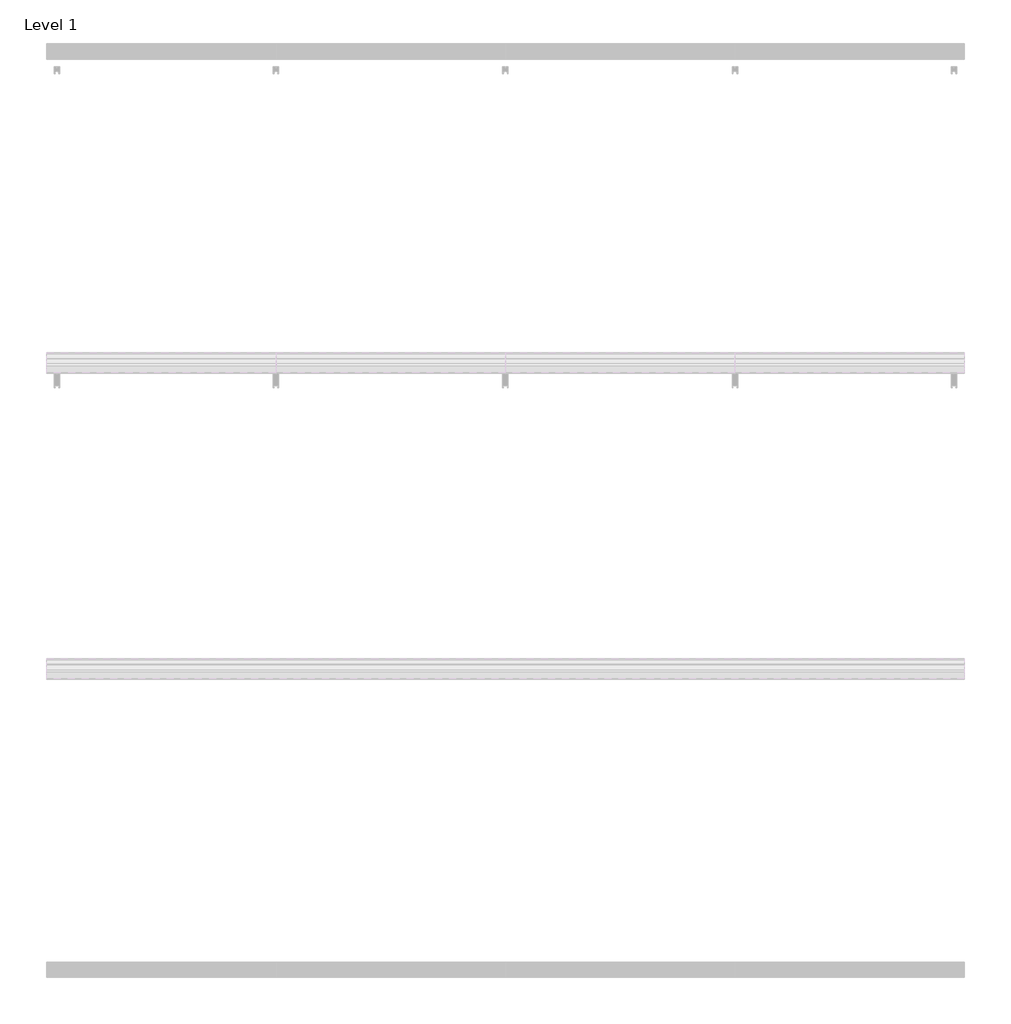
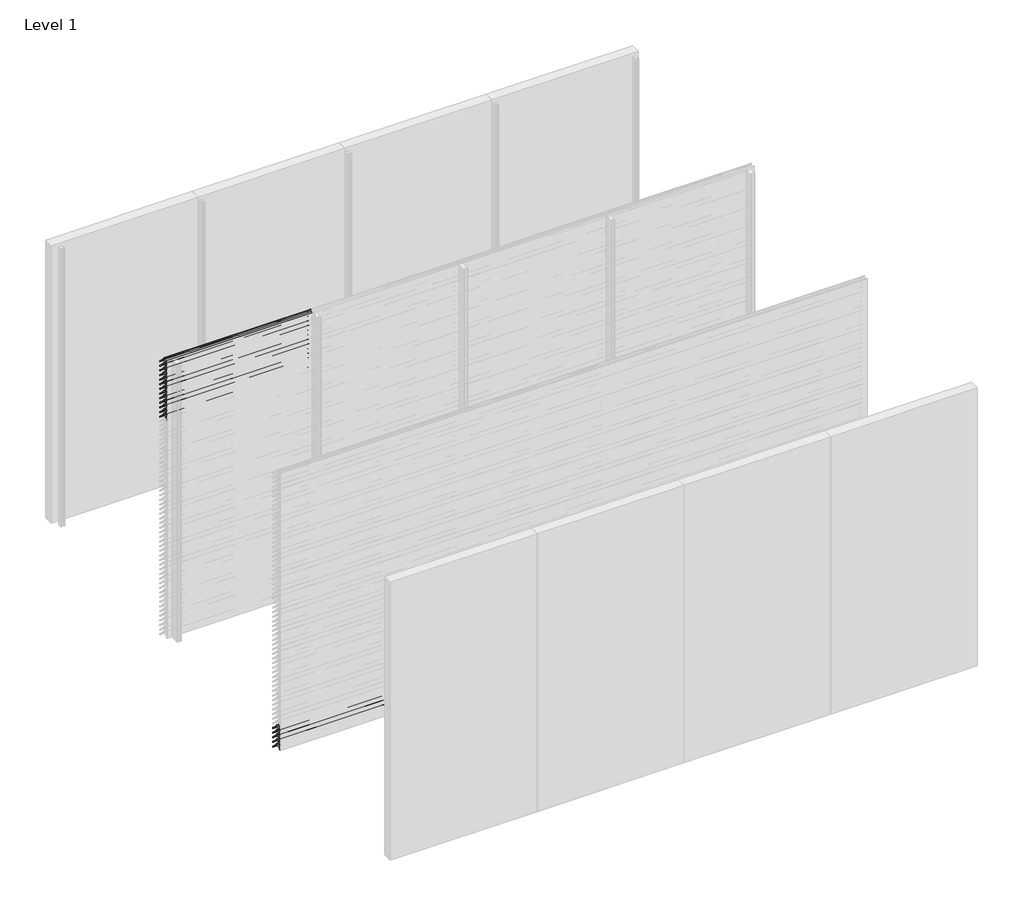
# One storey, part 109 of 173: 18 proxies.
"""IFC4 building model written with IfcOpenShell, lengths in millimetres."""

from ifc_helpers import new_model, si_unit, point, frame, frame_2d, origin, place, context, project, spatial, polyline, circle_curve, trimmed, segment, composite_curve, outline, extrude, element, save

model = new_model("IFC4")

# Units and contexts
model_context = context("Model", 3, world=origin())
ifc_project = project(units=[si_unit("LENGTHUNIT", "METRE", prefix="MILLI")], contexts=[model_context])

# Site, building, storey
site = spatial("IfcSite", under=ifc_project)
building = spatial("IfcBuilding", under=site)
storey = spatial("IfcBuildingStorey", under=building, Name="Level 1", Elevation=0.0)

# Proxies
placement = place(None, origin())
element("IfcBuildingElementProxy", 1, Name="Wall Sweeps", at=placement, inside=storey, context=model_context, shape_type="SweptSolid", body=[
    extrude(outline(composite_curve([segment(polyline([(-17998.0, 2959.1474905), (-17998.0, 2961.6227417)]), True, "CONTINUOUS"), segment(trimmed(circle_curve(frame_2d((-17951.2682172, 2916.2200208)), 65.1557103), [point((-17998.0, 2961.6227417))], [point((-17954.4014323, 2981.3003524))], False, "CARTESIAN"), True, "CONTINUOUS"), segment(polyline([(-17954.4014323, 2981.3003524), (-17934.8315836, 2981.3003524)]), True, "CONTINUOUS"), segment(trimmed(circle_curve(frame_2d((-17732.7329489, 3128.5533172)), 250.0545817), [point((-17934.8315836, 2981.3003524))], [point((-17941.4452143, 2990.8344583))], False, "CARTESIAN"), True, "CONTINUOUS"), segment(trimmed(circle_curve(frame_2d((-17953.2981792, 2985.1737835)), 13.1352966), [point((-17941.4452143, 2990.8344583))], [point((-17953.8171475, 2998.298824))], True, "CARTESIAN"), True, "CONTINUOUS"), segment(polyline([(-17953.8171475, 2998.298824), (-17953.8171475, 3000.0)]), True, "CONTINUOUS"), segment(trimmed(circle_curve(frame_2d((-17953.2981792, 2985.1737835)), 14.8352966), [point((-17953.8171475, 3000.0))], [point((-17939.9637661, 2991.6760487))], False, "CARTESIAN"), True, "CONTINUOUS"), segment(trimmed(circle_curve(frame_2d((-17732.7329489, 3128.5533172)), 248.3545817), [point((-17939.9637661, 2991.6760487))], [point((-17873.8787895, 2924.2059416))], True, "CARTESIAN"), True, "CONTINUOUS"), segment(trimmed(circle_curve(frame_2d((-17883.8147537, 2911.6649442)), 16.0), [point((-17873.8787895, 2924.2059416))], [point((-17867.8648347, 2910.4))], False, "CARTESIAN"), True, "CONTINUOUS"), segment(polyline([(-17867.8648347, 2910.4), (-17869.6712069, 2910.4)]), True, "CONTINUOUS"), segment(trimmed(circle_curve(frame_2d((-17883.8147537, 2911.6649442)), 14.2), [point((-17869.6712069, 2910.4))], [point((-17874.9518628, 2922.7594998))], True, "CARTESIAN"), True, "CONTINUOUS"), segment(trimmed(circle_curve(frame_2d((-17732.7329489, 3128.5533172)), 250.1545817), [point((-17874.9518628, 2922.7594998))], [point((-17933.7064024, 2979.6003524))], False, "CARTESIAN"), True, "CONTINUOUS"), segment(polyline([(-17933.7064024, 2979.6003524), (-17954.3602632, 2979.6003524)]), True, "CONTINUOUS"), segment(trimmed(circle_curve(frame_2d((-17951.2682172, 2916.2200208)), 63.4557103), [point((-17954.3602632, 2979.6003524))], [point((-17998.0, 2959.1474905))], True, "CARTESIAN"), True, "CONTINUOUS")], self_intersect=False)), frame((0.0, 0.0, 0.0), z_axis=(1.0, 0.0, 0.0), x_axis=(0.0, 1.0, 0.0)), (0.0, 0.0, 1.0), 1500.0),
])
element("IfcBuildingElementProxy", 2, Name="Wall Sweeps", at=placement, inside=storey, context=model_context, shape_type="SweptSolid", body=[
    extrude(outline(composite_curve([segment(polyline([(-17998.0, 2909.1474905), (-17998.0, 2911.6227417)]), True, "CONTINUOUS"), segment(trimmed(circle_curve(frame_2d((-17951.2682172, 2866.2200208)), 65.1557103), [point((-17998.0, 2911.6227417))], [point((-17954.4014323, 2931.3003524))], False, "CARTESIAN"), True, "CONTINUOUS"), segment(polyline([(-17954.4014323, 2931.3003524), (-17934.8315836, 2931.3003524)]), True, "CONTINUOUS"), segment(trimmed(circle_curve(frame_2d((-17732.7329489, 3078.5533172)), 250.0545817), [point((-17934.8315836, 2931.3003524))], [point((-17941.4452143, 2940.8344583))], False, "CARTESIAN"), True, "CONTINUOUS"), segment(trimmed(circle_curve(frame_2d((-17953.2981792, 2935.1737835)), 13.1352966), [point((-17941.4452143, 2940.8344583))], [point((-17953.8171475, 2948.298824))], True, "CARTESIAN"), True, "CONTINUOUS"), segment(polyline([(-17953.8171475, 2948.298824), (-17953.8171475, 2950.0)]), True, "CONTINUOUS"), segment(trimmed(circle_curve(frame_2d((-17953.2981792, 2935.1737835)), 14.8352966), [point((-17953.8171475, 2950.0))], [point((-17939.9637661, 2941.6760487))], False, "CARTESIAN"), True, "CONTINUOUS"), segment(trimmed(circle_curve(frame_2d((-17732.7329489, 3078.5533172)), 248.3545817), [point((-17939.9637661, 2941.6760487))], [point((-17873.8787895, 2874.2059416))], True, "CARTESIAN"), True, "CONTINUOUS"), segment(trimmed(circle_curve(frame_2d((-17883.8147537, 2861.6649442)), 16.0), [point((-17873.8787895, 2874.2059416))], [point((-17867.8648347, 2860.4))], False, "CARTESIAN"), True, "CONTINUOUS"), segment(polyline([(-17867.8648347, 2860.4), (-17869.6712069, 2860.4)]), True, "CONTINUOUS"), segment(trimmed(circle_curve(frame_2d((-17883.8147537, 2861.6649442)), 14.2), [point((-17869.6712069, 2860.4))], [point((-17874.9518628, 2872.7594998))], True, "CARTESIAN"), True, "CONTINUOUS"), segment(trimmed(circle_curve(frame_2d((-17732.7329489, 3078.5533172)), 250.1545817), [point((-17874.9518628, 2872.7594998))], [point((-17933.7064024, 2929.6003524))], False, "CARTESIAN"), True, "CONTINUOUS"), segment(polyline([(-17933.7064024, 2929.6003524), (-17954.3602632, 2929.6003524)]), True, "CONTINUOUS"), segment(trimmed(circle_curve(frame_2d((-17951.2682172, 2866.2200208)), 63.4557103), [point((-17954.3602632, 2929.6003524))], [point((-17998.0, 2909.1474905))], True, "CARTESIAN"), True, "CONTINUOUS")], self_intersect=False)), frame((0.0, 0.0, 0.0), z_axis=(1.0, 0.0, 0.0), x_axis=(0.0, 1.0, 0.0)), (0.0, 0.0, 1.0), 1500.0),
])
element("IfcBuildingElementProxy", 3, Name="Wall Sweeps", at=placement, inside=storey, context=model_context, shape_type="SweptSolid", body=[
    extrude(outline(composite_curve([segment(polyline([(-17998.0, 2859.1474905), (-17998.0, 2861.6227417)]), True, "CONTINUOUS"), segment(trimmed(circle_curve(frame_2d((-17951.2682172, 2816.2200208)), 65.1557103), [point((-17998.0, 2861.6227417))], [point((-17954.4014323, 2881.3003524))], False, "CARTESIAN"), True, "CONTINUOUS"), segment(polyline([(-17954.4014323, 2881.3003524), (-17934.8315836, 2881.3003524)]), True, "CONTINUOUS"), segment(trimmed(circle_curve(frame_2d((-17732.7329489, 3028.5533172)), 250.0545817), [point((-17934.8315836, 2881.3003524))], [point((-17941.4452143, 2890.8344583))], False, "CARTESIAN"), True, "CONTINUOUS"), segment(trimmed(circle_curve(frame_2d((-17953.2981792, 2885.1737835)), 13.1352966), [point((-17941.4452143, 2890.8344583))], [point((-17953.8171475, 2898.298824))], True, "CARTESIAN"), True, "CONTINUOUS"), segment(polyline([(-17953.8171475, 2898.298824), (-17953.8171475, 2900.0)]), True, "CONTINUOUS"), segment(trimmed(circle_curve(frame_2d((-17953.2981792, 2885.1737835)), 14.8352966), [point((-17953.8171475, 2900.0))], [point((-17939.9637661, 2891.6760487))], False, "CARTESIAN"), True, "CONTINUOUS"), segment(trimmed(circle_curve(frame_2d((-17732.7329489, 3028.5533172)), 248.3545817), [point((-17939.9637661, 2891.6760487))], [point((-17873.8787895, 2824.2059416))], True, "CARTESIAN"), True, "CONTINUOUS"), segment(trimmed(circle_curve(frame_2d((-17883.8147537, 2811.6649442)), 16.0), [point((-17873.8787895, 2824.2059416))], [point((-17867.8648347, 2810.4))], False, "CARTESIAN"), True, "CONTINUOUS"), segment(polyline([(-17867.8648347, 2810.4), (-17869.6712069, 2810.4)]), True, "CONTINUOUS"), segment(trimmed(circle_curve(frame_2d((-17883.8147537, 2811.6649442)), 14.2), [point((-17869.6712069, 2810.4))], [point((-17874.9518628, 2822.7594998))], True, "CARTESIAN"), True, "CONTINUOUS"), segment(trimmed(circle_curve(frame_2d((-17732.7329489, 3028.5533172)), 250.1545817), [point((-17874.9518628, 2822.7594998))], [point((-17933.7064024, 2879.6003524))], False, "CARTESIAN"), True, "CONTINUOUS"), segment(polyline([(-17933.7064024, 2879.6003524), (-17954.3602632, 2879.6003524)]), True, "CONTINUOUS"), segment(trimmed(circle_curve(frame_2d((-17951.2682172, 2816.2200208)), 63.4557103), [point((-17954.3602632, 2879.6003524))], [point((-17998.0, 2859.1474905))], True, "CARTESIAN"), True, "CONTINUOUS")], self_intersect=False)), frame((0.0, 0.0, 0.0), z_axis=(1.0, 0.0, 0.0), x_axis=(0.0, 1.0, 0.0)), (0.0, 0.0, 1.0), 1500.0),
])
element("IfcBuildingElementProxy", 4, Name="Wall Sweeps", at=placement, inside=storey, context=model_context, shape_type="SweptSolid", body=[
    extrude(outline(composite_curve([segment(polyline([(-17998.0, 2809.1474905), (-17998.0, 2811.6227417)]), True, "CONTINUOUS"), segment(trimmed(circle_curve(frame_2d((-17951.2682172, 2766.2200208)), 65.1557103), [point((-17998.0, 2811.6227417))], [point((-17954.4014323, 2831.3003524))], False, "CARTESIAN"), True, "CONTINUOUS"), segment(polyline([(-17954.4014323, 2831.3003524), (-17934.8315836, 2831.3003524)]), True, "CONTINUOUS"), segment(trimmed(circle_curve(frame_2d((-17732.7329489, 2978.5533172)), 250.0545817), [point((-17934.8315836, 2831.3003524))], [point((-17941.4452143, 2840.8344583))], False, "CARTESIAN"), True, "CONTINUOUS"), segment(trimmed(circle_curve(frame_2d((-17953.2981792, 2835.1737835)), 13.1352966), [point((-17941.4452143, 2840.8344583))], [point((-17953.8171475, 2848.298824))], True, "CARTESIAN"), True, "CONTINUOUS"), segment(polyline([(-17953.8171475, 2848.298824), (-17953.8171475, 2850.0)]), True, "CONTINUOUS"), segment(trimmed(circle_curve(frame_2d((-17953.2981792, 2835.1737835)), 14.8352966), [point((-17953.8171475, 2850.0))], [point((-17939.9637661, 2841.6760487))], False, "CARTESIAN"), True, "CONTINUOUS"), segment(trimmed(circle_curve(frame_2d((-17732.7329489, 2978.5533172)), 248.3545817), [point((-17939.9637661, 2841.6760487))], [point((-17873.8787895, 2774.2059416))], True, "CARTESIAN"), True, "CONTINUOUS"), segment(trimmed(circle_curve(frame_2d((-17883.8147537, 2761.6649442)), 16.0), [point((-17873.8787895, 2774.2059416))], [point((-17867.8648347, 2760.4))], False, "CARTESIAN"), True, "CONTINUOUS"), segment(polyline([(-17867.8648347, 2760.4), (-17869.6712069, 2760.4)]), True, "CONTINUOUS"), segment(trimmed(circle_curve(frame_2d((-17883.8147537, 2761.6649442)), 14.2), [point((-17869.6712069, 2760.4))], [point((-17874.9518628, 2772.7594998))], True, "CARTESIAN"), True, "CONTINUOUS"), segment(trimmed(circle_curve(frame_2d((-17732.7329489, 2978.5533172)), 250.1545817), [point((-17874.9518628, 2772.7594998))], [point((-17933.7064024, 2829.6003524))], False, "CARTESIAN"), True, "CONTINUOUS"), segment(polyline([(-17933.7064024, 2829.6003524), (-17954.3602632, 2829.6003524)]), True, "CONTINUOUS"), segment(trimmed(circle_curve(frame_2d((-17951.2682172, 2766.2200208)), 63.4557103), [point((-17954.3602632, 2829.6003524))], [point((-17998.0, 2809.1474905))], True, "CARTESIAN"), True, "CONTINUOUS")], self_intersect=False)), frame((0.0, 0.0, 0.0), z_axis=(1.0, 0.0, 0.0), x_axis=(0.0, 1.0, 0.0)), (0.0, 0.0, 1.0), 1500.0),
])
element("IfcBuildingElementProxy", 5, Name="Wall Sweeps", at=placement, inside=storey, context=model_context, shape_type="SweptSolid", body=[
    extrude(outline(composite_curve([segment(polyline([(-17998.0, 2759.1474905), (-17998.0, 2761.6227417)]), True, "CONTINUOUS"), segment(trimmed(circle_curve(frame_2d((-17951.2682172, 2716.2200208)), 65.1557103), [point((-17998.0, 2761.6227417))], [point((-17954.4014323, 2781.3003524))], False, "CARTESIAN"), True, "CONTINUOUS"), segment(polyline([(-17954.4014323, 2781.3003524), (-17934.8315836, 2781.3003524)]), True, "CONTINUOUS"), segment(trimmed(circle_curve(frame_2d((-17732.7329489, 2928.5533172)), 250.0545817), [point((-17934.8315836, 2781.3003524))], [point((-17941.4452143, 2790.8344583))], False, "CARTESIAN"), True, "CONTINUOUS"), segment(trimmed(circle_curve(frame_2d((-17953.2981792, 2785.1737835)), 13.1352966), [point((-17941.4452143, 2790.8344583))], [point((-17953.8171475, 2798.298824))], True, "CARTESIAN"), True, "CONTINUOUS"), segment(polyline([(-17953.8171475, 2798.298824), (-17953.8171475, 2800.0)]), True, "CONTINUOUS"), segment(trimmed(circle_curve(frame_2d((-17953.2981792, 2785.1737835)), 14.8352966), [point((-17953.8171475, 2800.0))], [point((-17939.9637661, 2791.6760487))], False, "CARTESIAN"), True, "CONTINUOUS"), segment(trimmed(circle_curve(frame_2d((-17732.7329489, 2928.5533172)), 248.3545817), [point((-17939.9637661, 2791.6760487))], [point((-17873.8787895, 2724.2059416))], True, "CARTESIAN"), True, "CONTINUOUS"), segment(trimmed(circle_curve(frame_2d((-17883.8147537, 2711.6649442)), 16.0), [point((-17873.8787895, 2724.2059416))], [point((-17867.8648347, 2710.4))], False, "CARTESIAN"), True, "CONTINUOUS"), segment(polyline([(-17867.8648347, 2710.4), (-17869.6712069, 2710.4)]), True, "CONTINUOUS"), segment(trimmed(circle_curve(frame_2d((-17883.8147537, 2711.6649442)), 14.2), [point((-17869.6712069, 2710.4))], [point((-17874.9518628, 2722.7594998))], True, "CARTESIAN"), True, "CONTINUOUS"), segment(trimmed(circle_curve(frame_2d((-17732.7329489, 2928.5533172)), 250.1545817), [point((-17874.9518628, 2722.7594998))], [point((-17933.7064024, 2779.6003524))], False, "CARTESIAN"), True, "CONTINUOUS"), segment(polyline([(-17933.7064024, 2779.6003524), (-17954.3602632, 2779.6003524)]), True, "CONTINUOUS"), segment(trimmed(circle_curve(frame_2d((-17951.2682172, 2716.2200208)), 63.4557103), [point((-17954.3602632, 2779.6003524))], [point((-17998.0, 2759.1474905))], True, "CARTESIAN"), True, "CONTINUOUS")], self_intersect=False)), frame((0.0, 0.0, 0.0), z_axis=(1.0, 0.0, 0.0), x_axis=(0.0, 1.0, 0.0)), (0.0, 0.0, 1.0), 1500.0),
])
element("IfcBuildingElementProxy", 6, Name="Wall Sweeps", at=placement, inside=storey, context=model_context, shape_type="SweptSolid", body=[
    extrude(outline(composite_curve([segment(polyline([(-17998.0, 2709.1474905), (-17998.0, 2711.6227417)]), True, "CONTINUOUS"), segment(trimmed(circle_curve(frame_2d((-17951.2682172, 2666.2200208)), 65.1557103), [point((-17998.0, 2711.6227417))], [point((-17954.4014323, 2731.3003524))], False, "CARTESIAN"), True, "CONTINUOUS"), segment(polyline([(-17954.4014323, 2731.3003524), (-17934.8315836, 2731.3003524)]), True, "CONTINUOUS"), segment(trimmed(circle_curve(frame_2d((-17732.7329489, 2878.5533172)), 250.0545817), [point((-17934.8315836, 2731.3003524))], [point((-17941.4452143, 2740.8344583))], False, "CARTESIAN"), True, "CONTINUOUS"), segment(trimmed(circle_curve(frame_2d((-17953.2981792, 2735.1737835)), 13.1352966), [point((-17941.4452143, 2740.8344583))], [point((-17953.8171475, 2748.298824))], True, "CARTESIAN"), True, "CONTINUOUS"), segment(polyline([(-17953.8171475, 2748.298824), (-17953.8171475, 2750.0)]), True, "CONTINUOUS"), segment(trimmed(circle_curve(frame_2d((-17953.2981792, 2735.1737835)), 14.8352966), [point((-17953.8171475, 2750.0))], [point((-17939.9637661, 2741.6760487))], False, "CARTESIAN"), True, "CONTINUOUS"), segment(trimmed(circle_curve(frame_2d((-17732.7329489, 2878.5533172)), 248.3545817), [point((-17939.9637661, 2741.6760487))], [point((-17873.8787895, 2674.2059416))], True, "CARTESIAN"), True, "CONTINUOUS"), segment(trimmed(circle_curve(frame_2d((-17883.8147537, 2661.6649442)), 16.0), [point((-17873.8787895, 2674.2059416))], [point((-17867.8648347, 2660.4))], False, "CARTESIAN"), True, "CONTINUOUS"), segment(polyline([(-17867.8648347, 2660.4), (-17869.6712069, 2660.4)]), True, "CONTINUOUS"), segment(trimmed(circle_curve(frame_2d((-17883.8147537, 2661.6649442)), 14.2), [point((-17869.6712069, 2660.4))], [point((-17874.9518628, 2672.7594998))], True, "CARTESIAN"), True, "CONTINUOUS"), segment(trimmed(circle_curve(frame_2d((-17732.7329489, 2878.5533172)), 250.1545817), [point((-17874.9518628, 2672.7594998))], [point((-17933.7064024, 2729.6003524))], False, "CARTESIAN"), True, "CONTINUOUS"), segment(polyline([(-17933.7064024, 2729.6003524), (-17954.3602632, 2729.6003524)]), True, "CONTINUOUS"), segment(trimmed(circle_curve(frame_2d((-17951.2682172, 2666.2200208)), 63.4557103), [point((-17954.3602632, 2729.6003524))], [point((-17998.0, 2709.1474905))], True, "CARTESIAN"), True, "CONTINUOUS")], self_intersect=False)), frame((0.0, 0.0, 0.0), z_axis=(1.0, 0.0, 0.0), x_axis=(0.0, 1.0, 0.0)), (0.0, 0.0, 1.0), 1500.0),
])
element("IfcBuildingElementProxy", 7, Name="Wall Sweeps", at=placement, inside=storey, context=model_context, shape_type="SweptSolid", body=[
    extrude(outline(composite_curve([segment(polyline([(-17998.0, 2659.1474905), (-17998.0, 2661.6227417)]), True, "CONTINUOUS"), segment(trimmed(circle_curve(frame_2d((-17951.2682172, 2616.2200208)), 65.1557103), [point((-17998.0, 2661.6227417))], [point((-17954.4014323, 2681.3003524))], False, "CARTESIAN"), True, "CONTINUOUS"), segment(polyline([(-17954.4014323, 2681.3003524), (-17934.8315836, 2681.3003524)]), True, "CONTINUOUS"), segment(trimmed(circle_curve(frame_2d((-17732.7329489, 2828.5533172)), 250.0545817), [point((-17934.8315836, 2681.3003524))], [point((-17941.4452143, 2690.8344583))], False, "CARTESIAN"), True, "CONTINUOUS"), segment(trimmed(circle_curve(frame_2d((-17953.2981792, 2685.1737835)), 13.1352966), [point((-17941.4452143, 2690.8344583))], [point((-17953.8171475, 2698.298824))], True, "CARTESIAN"), True, "CONTINUOUS"), segment(polyline([(-17953.8171475, 2698.298824), (-17953.8171475, 2700.0)]), True, "CONTINUOUS"), segment(trimmed(circle_curve(frame_2d((-17953.2981792, 2685.1737835)), 14.8352966), [point((-17953.8171475, 2700.0))], [point((-17939.9637661, 2691.6760487))], False, "CARTESIAN"), True, "CONTINUOUS"), segment(trimmed(circle_curve(frame_2d((-17732.7329489, 2828.5533172)), 248.3545817), [point((-17939.9637661, 2691.6760487))], [point((-17873.8787895, 2624.2059416))], True, "CARTESIAN"), True, "CONTINUOUS"), segment(trimmed(circle_curve(frame_2d((-17883.8147537, 2611.6649442)), 16.0), [point((-17873.8787895, 2624.2059416))], [point((-17867.8648347, 2610.4))], False, "CARTESIAN"), True, "CONTINUOUS"), segment(polyline([(-17867.8648347, 2610.4), (-17869.6712069, 2610.4)]), True, "CONTINUOUS"), segment(trimmed(circle_curve(frame_2d((-17883.8147537, 2611.6649442)), 14.2), [point((-17869.6712069, 2610.4))], [point((-17874.9518628, 2622.7594998))], True, "CARTESIAN"), True, "CONTINUOUS"), segment(trimmed(circle_curve(frame_2d((-17732.7329489, 2828.5533172)), 250.1545817), [point((-17874.9518628, 2622.7594998))], [point((-17933.7064024, 2679.6003524))], False, "CARTESIAN"), True, "CONTINUOUS"), segment(polyline([(-17933.7064024, 2679.6003524), (-17954.3602632, 2679.6003524)]), True, "CONTINUOUS"), segment(trimmed(circle_curve(frame_2d((-17951.2682172, 2616.2200208)), 63.4557103), [point((-17954.3602632, 2679.6003524))], [point((-17998.0, 2659.1474905))], True, "CARTESIAN"), True, "CONTINUOUS")], self_intersect=False)), frame((0.0, 0.0, 0.0), z_axis=(1.0, 0.0, 0.0), x_axis=(0.0, 1.0, 0.0)), (0.0, 0.0, 1.0), 1500.0),
])
element("IfcBuildingElementProxy", 8, Name="Wall Sweeps", at=placement, inside=storey, context=model_context, shape_type="SweptSolid", body=[
    extrude(outline(composite_curve([segment(polyline([(-17998.0, 2609.1474905), (-17998.0, 2611.6227417)]), True, "CONTINUOUS"), segment(trimmed(circle_curve(frame_2d((-17951.2682172, 2566.2200208)), 65.1557103), [point((-17998.0, 2611.6227417))], [point((-17954.4014323, 2631.3003524))], False, "CARTESIAN"), True, "CONTINUOUS"), segment(polyline([(-17954.4014323, 2631.3003524), (-17934.8315836, 2631.3003524)]), True, "CONTINUOUS"), segment(trimmed(circle_curve(frame_2d((-17732.7329489, 2778.5533172)), 250.0545817), [point((-17934.8315836, 2631.3003524))], [point((-17941.4452143, 2640.8344583))], False, "CARTESIAN"), True, "CONTINUOUS"), segment(trimmed(circle_curve(frame_2d((-17953.2981792, 2635.1737835)), 13.1352966), [point((-17941.4452143, 2640.8344583))], [point((-17953.8171475, 2648.298824))], True, "CARTESIAN"), True, "CONTINUOUS"), segment(polyline([(-17953.8171475, 2648.298824), (-17953.8171475, 2650.0)]), True, "CONTINUOUS"), segment(trimmed(circle_curve(frame_2d((-17953.2981792, 2635.1737835)), 14.8352966), [point((-17953.8171475, 2650.0))], [point((-17939.9637661, 2641.6760487))], False, "CARTESIAN"), True, "CONTINUOUS"), segment(trimmed(circle_curve(frame_2d((-17732.7329489, 2778.5533172)), 248.3545817), [point((-17939.9637661, 2641.6760487))], [point((-17873.8787895, 2574.2059416))], True, "CARTESIAN"), True, "CONTINUOUS"), segment(trimmed(circle_curve(frame_2d((-17883.8147537, 2561.6649442)), 16.0), [point((-17873.8787895, 2574.2059416))], [point((-17867.8648347, 2560.4))], False, "CARTESIAN"), True, "CONTINUOUS"), segment(polyline([(-17867.8648347, 2560.4), (-17869.6712069, 2560.4)]), True, "CONTINUOUS"), segment(trimmed(circle_curve(frame_2d((-17883.8147537, 2561.6649442)), 14.2), [point((-17869.6712069, 2560.4))], [point((-17874.9518628, 2572.7594998))], True, "CARTESIAN"), True, "CONTINUOUS"), segment(trimmed(circle_curve(frame_2d((-17732.7329489, 2778.5533172)), 250.1545817), [point((-17874.9518628, 2572.7594998))], [point((-17933.7064024, 2629.6003524))], False, "CARTESIAN"), True, "CONTINUOUS"), segment(polyline([(-17933.7064024, 2629.6003524), (-17954.3602632, 2629.6003524)]), True, "CONTINUOUS"), segment(trimmed(circle_curve(frame_2d((-17951.2682172, 2566.2200208)), 63.4557103), [point((-17954.3602632, 2629.6003524))], [point((-17998.0, 2609.1474905))], True, "CARTESIAN"), True, "CONTINUOUS")], self_intersect=False)), frame((0.0, 0.0, 0.0), z_axis=(1.0, 0.0, 0.0), x_axis=(0.0, 1.0, 0.0)), (0.0, 0.0, 1.0), 1500.0),
])
element("IfcBuildingElementProxy", 9, Name="Wall Sweeps", at=placement, inside=storey, context=model_context, shape_type="SweptSolid", body=[
    extrude(outline(composite_curve([segment(polyline([(-17998.0, 2559.1474905), (-17998.0, 2561.6227417)]), True, "CONTINUOUS"), segment(trimmed(circle_curve(frame_2d((-17951.2682172, 2516.2200208)), 65.1557103), [point((-17998.0, 2561.6227417))], [point((-17954.4014323, 2581.3003524))], False, "CARTESIAN"), True, "CONTINUOUS"), segment(polyline([(-17954.4014323, 2581.3003524), (-17934.8315836, 2581.3003524)]), True, "CONTINUOUS"), segment(trimmed(circle_curve(frame_2d((-17732.7329489, 2728.5533172)), 250.0545817), [point((-17934.8315836, 2581.3003524))], [point((-17941.4452143, 2590.8344583))], False, "CARTESIAN"), True, "CONTINUOUS"), segment(trimmed(circle_curve(frame_2d((-17953.2981792, 2585.1737835)), 13.1352966), [point((-17941.4452143, 2590.8344583))], [point((-17953.8171475, 2598.298824))], True, "CARTESIAN"), True, "CONTINUOUS"), segment(polyline([(-17953.8171475, 2598.298824), (-17953.8171475, 2600.0)]), True, "CONTINUOUS"), segment(trimmed(circle_curve(frame_2d((-17953.2981792, 2585.1737835)), 14.8352966), [point((-17953.8171475, 2600.0))], [point((-17939.9637661, 2591.6760487))], False, "CARTESIAN"), True, "CONTINUOUS"), segment(trimmed(circle_curve(frame_2d((-17732.7329489, 2728.5533172)), 248.3545817), [point((-17939.9637661, 2591.6760487))], [point((-17873.8787895, 2524.2059416))], True, "CARTESIAN"), True, "CONTINUOUS"), segment(trimmed(circle_curve(frame_2d((-17883.8147537, 2511.6649442)), 16.0), [point((-17873.8787895, 2524.2059416))], [point((-17867.8648347, 2510.4))], False, "CARTESIAN"), True, "CONTINUOUS"), segment(polyline([(-17867.8648347, 2510.4), (-17869.6712069, 2510.4)]), True, "CONTINUOUS"), segment(trimmed(circle_curve(frame_2d((-17883.8147537, 2511.6649442)), 14.2), [point((-17869.6712069, 2510.4))], [point((-17874.9518628, 2522.7594998))], True, "CARTESIAN"), True, "CONTINUOUS"), segment(trimmed(circle_curve(frame_2d((-17732.7329489, 2728.5533172)), 250.1545817), [point((-17874.9518628, 2522.7594998))], [point((-17933.7064024, 2579.6003524))], False, "CARTESIAN"), True, "CONTINUOUS"), segment(polyline([(-17933.7064024, 2579.6003524), (-17954.3602632, 2579.6003524)]), True, "CONTINUOUS"), segment(trimmed(circle_curve(frame_2d((-17951.2682172, 2516.2200208)), 63.4557103), [point((-17954.3602632, 2579.6003524))], [point((-17998.0, 2559.1474905))], True, "CARTESIAN"), True, "CONTINUOUS")], self_intersect=False)), frame((0.0, 0.0, 0.0), z_axis=(1.0, 0.0, 0.0), x_axis=(0.0, 1.0, 0.0)), (0.0, 0.0, 1.0), 1500.0),
])
element("IfcBuildingElementProxy", 10, Name="Wall Sweeps", at=placement, inside=storey, context=model_context, shape_type="SweptSolid", body=[
    extrude(outline(composite_curve([segment(polyline([(-17998.0, 2509.1474905), (-17998.0, 2511.6227417)]), True, "CONTINUOUS"), segment(trimmed(circle_curve(frame_2d((-17951.2682172, 2466.2200208)), 65.1557103), [point((-17998.0, 2511.6227417))], [point((-17954.4014323, 2531.3003524))], False, "CARTESIAN"), True, "CONTINUOUS"), segment(polyline([(-17954.4014323, 2531.3003524), (-17934.8315836, 2531.3003524)]), True, "CONTINUOUS"), segment(trimmed(circle_curve(frame_2d((-17732.7329489, 2678.5533172)), 250.0545817), [point((-17934.8315836, 2531.3003524))], [point((-17941.4452143, 2540.8344583))], False, "CARTESIAN"), True, "CONTINUOUS"), segment(trimmed(circle_curve(frame_2d((-17953.2981792, 2535.1737835)), 13.1352966), [point((-17941.4452143, 2540.8344583))], [point((-17953.8171475, 2548.298824))], True, "CARTESIAN"), True, "CONTINUOUS"), segment(polyline([(-17953.8171475, 2548.298824), (-17953.8171475, 2550.0)]), True, "CONTINUOUS"), segment(trimmed(circle_curve(frame_2d((-17953.2981792, 2535.1737835)), 14.8352966), [point((-17953.8171475, 2550.0))], [point((-17939.9637661, 2541.6760487))], False, "CARTESIAN"), True, "CONTINUOUS"), segment(trimmed(circle_curve(frame_2d((-17732.7329489, 2678.5533172)), 248.3545817), [point((-17939.9637661, 2541.6760487))], [point((-17873.8787895, 2474.2059416))], True, "CARTESIAN"), True, "CONTINUOUS"), segment(trimmed(circle_curve(frame_2d((-17883.8147537, 2461.6649442)), 16.0), [point((-17873.8787895, 2474.2059416))], [point((-17867.8648347, 2460.4))], False, "CARTESIAN"), True, "CONTINUOUS"), segment(polyline([(-17867.8648347, 2460.4), (-17869.6712069, 2460.4)]), True, "CONTINUOUS"), segment(trimmed(circle_curve(frame_2d((-17883.8147537, 2461.6649442)), 14.2), [point((-17869.6712069, 2460.4))], [point((-17874.9518628, 2472.7594998))], True, "CARTESIAN"), True, "CONTINUOUS"), segment(trimmed(circle_curve(frame_2d((-17732.7329489, 2678.5533172)), 250.1545817), [point((-17874.9518628, 2472.7594998))], [point((-17933.7064024, 2529.6003524))], False, "CARTESIAN"), True, "CONTINUOUS"), segment(polyline([(-17933.7064024, 2529.6003524), (-17954.3602632, 2529.6003524)]), True, "CONTINUOUS"), segment(trimmed(circle_curve(frame_2d((-17951.2682172, 2466.2200208)), 63.4557103), [point((-17954.3602632, 2529.6003524))], [point((-17998.0, 2509.1474905))], True, "CARTESIAN"), True, "CONTINUOUS")], self_intersect=False)), frame((0.0, 0.0, 0.0), z_axis=(1.0, 0.0, 0.0), x_axis=(0.0, 1.0, 0.0)), (0.0, 0.0, 1.0), 1500.0),
])
element("IfcBuildingElementProxy", 11, Name="Wall Sweeps", at=placement, inside=storey, context=model_context, shape_type="SweptSolid", body=[
    extrude(outline(composite_curve([segment(polyline([(-17998.0, 2459.1474905), (-17998.0, 2461.6227417)]), True, "CONTINUOUS"), segment(trimmed(circle_curve(frame_2d((-17951.2682172, 2416.2200208)), 65.1557103), [point((-17998.0, 2461.6227417))], [point((-17954.4014323, 2481.3003524))], False, "CARTESIAN"), True, "CONTINUOUS"), segment(polyline([(-17954.4014323, 2481.3003524), (-17934.8315836, 2481.3003524)]), True, "CONTINUOUS"), segment(trimmed(circle_curve(frame_2d((-17732.7329489, 2628.5533172)), 250.0545817), [point((-17934.8315836, 2481.3003524))], [point((-17941.4452143, 2490.8344583))], False, "CARTESIAN"), True, "CONTINUOUS"), segment(trimmed(circle_curve(frame_2d((-17953.2981792, 2485.1737835)), 13.1352966), [point((-17941.4452143, 2490.8344583))], [point((-17953.8171475, 2498.298824))], True, "CARTESIAN"), True, "CONTINUOUS"), segment(polyline([(-17953.8171475, 2498.298824), (-17953.8171475, 2500.0)]), True, "CONTINUOUS"), segment(trimmed(circle_curve(frame_2d((-17953.2981792, 2485.1737835)), 14.8352966), [point((-17953.8171475, 2500.0))], [point((-17939.9637661, 2491.6760487))], False, "CARTESIAN"), True, "CONTINUOUS"), segment(trimmed(circle_curve(frame_2d((-17732.7329489, 2628.5533172)), 248.3545817), [point((-17939.9637661, 2491.6760487))], [point((-17873.8787895, 2424.2059416))], True, "CARTESIAN"), True, "CONTINUOUS"), segment(trimmed(circle_curve(frame_2d((-17883.8147537, 2411.6649442)), 16.0), [point((-17873.8787895, 2424.2059416))], [point((-17867.8648347, 2410.4))], False, "CARTESIAN"), True, "CONTINUOUS"), segment(polyline([(-17867.8648347, 2410.4), (-17869.6712069, 2410.4)]), True, "CONTINUOUS"), segment(trimmed(circle_curve(frame_2d((-17883.8147537, 2411.6649442)), 14.2), [point((-17869.6712069, 2410.4))], [point((-17874.9518628, 2422.7594998))], True, "CARTESIAN"), True, "CONTINUOUS"), segment(trimmed(circle_curve(frame_2d((-17732.7329489, 2628.5533172)), 250.1545817), [point((-17874.9518628, 2422.7594998))], [point((-17933.7064024, 2479.6003524))], False, "CARTESIAN"), True, "CONTINUOUS"), segment(polyline([(-17933.7064024, 2479.6003524), (-17954.3602632, 2479.6003524)]), True, "CONTINUOUS"), segment(trimmed(circle_curve(frame_2d((-17951.2682172, 2416.2200208)), 63.4557103), [point((-17954.3602632, 2479.6003524))], [point((-17998.0, 2459.1474905))], True, "CARTESIAN"), True, "CONTINUOUS")], self_intersect=False)), frame((0.0, 0.0, 0.0), z_axis=(1.0, 0.0, 0.0), x_axis=(0.0, 1.0, 0.0)), (0.0, 0.0, 1.0), 1500.0),
])
element("IfcBuildingElementProxy", 12, Name="Wall Sweeps", at=placement, inside=storey, context=model_context, shape_type="SweptSolid", body=[
    extrude(outline(composite_curve([segment(polyline([(-17998.0, 2409.1474905), (-17998.0, 2411.6227417)]), True, "CONTINUOUS"), segment(trimmed(circle_curve(frame_2d((-17951.2682172, 2366.2200208)), 65.1557103), [point((-17998.0, 2411.6227417))], [point((-17954.4014323, 2431.3003524))], False, "CARTESIAN"), True, "CONTINUOUS"), segment(polyline([(-17954.4014323, 2431.3003524), (-17934.8315836, 2431.3003524)]), True, "CONTINUOUS"), segment(trimmed(circle_curve(frame_2d((-17732.7329489, 2578.5533172)), 250.0545817), [point((-17934.8315836, 2431.3003524))], [point((-17941.4452143, 2440.8344583))], False, "CARTESIAN"), True, "CONTINUOUS"), segment(trimmed(circle_curve(frame_2d((-17953.2981792, 2435.1737835)), 13.1352966), [point((-17941.4452143, 2440.8344583))], [point((-17953.8171475, 2448.298824))], True, "CARTESIAN"), True, "CONTINUOUS"), segment(polyline([(-17953.8171475, 2448.298824), (-17953.8171475, 2450.0)]), True, "CONTINUOUS"), segment(trimmed(circle_curve(frame_2d((-17953.2981792, 2435.1737835)), 14.8352966), [point((-17953.8171475, 2450.0))], [point((-17939.9637661, 2441.6760487))], False, "CARTESIAN"), True, "CONTINUOUS"), segment(trimmed(circle_curve(frame_2d((-17732.7329489, 2578.5533172)), 248.3545817), [point((-17939.9637661, 2441.6760487))], [point((-17873.8787895, 2374.2059416))], True, "CARTESIAN"), True, "CONTINUOUS"), segment(trimmed(circle_curve(frame_2d((-17883.8147537, 2361.6649442)), 16.0), [point((-17873.8787895, 2374.2059416))], [point((-17867.8648347, 2360.4))], False, "CARTESIAN"), True, "CONTINUOUS"), segment(polyline([(-17867.8648347, 2360.4), (-17869.6712069, 2360.4)]), True, "CONTINUOUS"), segment(trimmed(circle_curve(frame_2d((-17883.8147537, 2361.6649442)), 14.2), [point((-17869.6712069, 2360.4))], [point((-17874.9518628, 2372.7594998))], True, "CARTESIAN"), True, "CONTINUOUS"), segment(trimmed(circle_curve(frame_2d((-17732.7329489, 2578.5533172)), 250.1545817), [point((-17874.9518628, 2372.7594998))], [point((-17933.7064024, 2429.6003524))], False, "CARTESIAN"), True, "CONTINUOUS"), segment(polyline([(-17933.7064024, 2429.6003524), (-17954.3602632, 2429.6003524)]), True, "CONTINUOUS"), segment(trimmed(circle_curve(frame_2d((-17951.2682172, 2366.2200208)), 63.4557103), [point((-17954.3602632, 2429.6003524))], [point((-17998.0, 2409.1474905))], True, "CARTESIAN"), True, "CONTINUOUS")], self_intersect=False)), frame((0.0, 0.0, 0.0), z_axis=(1.0, 0.0, 0.0), x_axis=(0.0, 1.0, 0.0)), (0.0, 0.0, 1.0), 1500.0),
])
element("IfcBuildingElementProxy", 13, Name="Wall Sweeps", at=placement, inside=storey, context=model_context, shape_type="SweptSolid", body=[
    extrude(outline(composite_curve([segment(polyline([(-17998.0, 2359.1474905), (-17998.0, 2361.6227417)]), True, "CONTINUOUS"), segment(trimmed(circle_curve(frame_2d((-17951.2682172, 2316.2200208)), 65.1557103), [point((-17998.0, 2361.6227417))], [point((-17954.4014323, 2381.3003524))], False, "CARTESIAN"), True, "CONTINUOUS"), segment(polyline([(-17954.4014323, 2381.3003524), (-17934.8315836, 2381.3003524)]), True, "CONTINUOUS"), segment(trimmed(circle_curve(frame_2d((-17732.7329489, 2528.5533172)), 250.0545817), [point((-17934.8315836, 2381.3003524))], [point((-17941.4452143, 2390.8344583))], False, "CARTESIAN"), True, "CONTINUOUS"), segment(trimmed(circle_curve(frame_2d((-17953.2981792, 2385.1737835)), 13.1352966), [point((-17941.4452143, 2390.8344583))], [point((-17953.8171475, 2398.298824))], True, "CARTESIAN"), True, "CONTINUOUS"), segment(polyline([(-17953.8171475, 2398.298824), (-17953.8171475, 2400.0)]), True, "CONTINUOUS"), segment(trimmed(circle_curve(frame_2d((-17953.2981792, 2385.1737835)), 14.8352966), [point((-17953.8171475, 2400.0))], [point((-17939.9637661, 2391.6760487))], False, "CARTESIAN"), True, "CONTINUOUS"), segment(trimmed(circle_curve(frame_2d((-17732.7329489, 2528.5533172)), 248.3545817), [point((-17939.9637661, 2391.6760487))], [point((-17873.8787895, 2324.2059416))], True, "CARTESIAN"), True, "CONTINUOUS"), segment(trimmed(circle_curve(frame_2d((-17883.8147537, 2311.6649442)), 16.0), [point((-17873.8787895, 2324.2059416))], [point((-17867.8648347, 2310.4))], False, "CARTESIAN"), True, "CONTINUOUS"), segment(polyline([(-17867.8648347, 2310.4), (-17869.6712069, 2310.4)]), True, "CONTINUOUS"), segment(trimmed(circle_curve(frame_2d((-17883.8147537, 2311.6649442)), 14.2), [point((-17869.6712069, 2310.4))], [point((-17874.9518628, 2322.7594998))], True, "CARTESIAN"), True, "CONTINUOUS"), segment(trimmed(circle_curve(frame_2d((-17732.7329489, 2528.5533172)), 250.1545817), [point((-17874.9518628, 2322.7594998))], [point((-17933.7064024, 2379.6003524))], False, "CARTESIAN"), True, "CONTINUOUS"), segment(polyline([(-17933.7064024, 2379.6003524), (-17954.3602632, 2379.6003524)]), True, "CONTINUOUS"), segment(trimmed(circle_curve(frame_2d((-17951.2682172, 2316.2200208)), 63.4557103), [point((-17954.3602632, 2379.6003524))], [point((-17998.0, 2359.1474905))], True, "CARTESIAN"), True, "CONTINUOUS")], self_intersect=False)), frame((0.0, 0.0, 0.0), z_axis=(1.0, 0.0, 0.0), x_axis=(0.0, 1.0, 0.0)), (0.0, 0.0, 1.0), 1500.0),
])
element("IfcBuildingElementProxy", 14, Name="Wall Sweeps", at=placement, inside=storey, context=model_context, shape_type="SweptSolid", body=[
    extrude(outline(composite_curve([segment(polyline([(-19998.0, 209.1474905), (-19998.0, 211.6227417)]), True, "CONTINUOUS"), segment(trimmed(circle_curve(frame_2d((-19951.2682172, 166.2200208)), 65.1557103), [point((-19998.0, 211.6227417))], [point((-19954.4014323, 231.3003524))], False, "CARTESIAN"), True, "CONTINUOUS"), segment(polyline([(-19954.4014323, 231.3003524), (-19934.8315836, 231.3003524)]), True, "CONTINUOUS"), segment(trimmed(circle_curve(frame_2d((-19732.7329489, 378.5533172)), 250.0545817), [point((-19934.8315836, 231.3003524))], [point((-19941.4452143, 240.8344583))], False, "CARTESIAN"), True, "CONTINUOUS"), segment(trimmed(circle_curve(frame_2d((-19953.2981792, 235.1737835)), 13.1352966), [point((-19941.4452143, 240.8344583))], [point((-19953.8171475, 248.298824))], True, "CARTESIAN"), True, "CONTINUOUS"), segment(polyline([(-19953.8171475, 248.298824), (-19953.8171475, 250.0)]), True, "CONTINUOUS"), segment(trimmed(circle_curve(frame_2d((-19953.2981792, 235.1737835)), 14.8352966), [point((-19953.8171475, 250.0))], [point((-19939.9637661, 241.6760487))], False, "CARTESIAN"), True, "CONTINUOUS"), segment(trimmed(circle_curve(frame_2d((-19732.7329489, 378.5533172)), 248.3545817), [point((-19939.9637661, 241.6760487))], [point((-19873.8787895, 174.2059416))], True, "CARTESIAN"), True, "CONTINUOUS"), segment(trimmed(circle_curve(frame_2d((-19883.8147537, 161.6649442)), 16.0), [point((-19873.8787895, 174.2059416))], [point((-19867.8648347, 160.4))], False, "CARTESIAN"), True, "CONTINUOUS"), segment(polyline([(-19867.8648347, 160.4), (-19869.6712069, 160.4)]), True, "CONTINUOUS"), segment(trimmed(circle_curve(frame_2d((-19883.8147537, 161.6649442)), 14.2), [point((-19869.6712069, 160.4))], [point((-19874.9518628, 172.7594998))], True, "CARTESIAN"), True, "CONTINUOUS"), segment(trimmed(circle_curve(frame_2d((-19732.7329489, 378.5533172)), 250.1545817), [point((-19874.9518628, 172.7594998))], [point((-19933.7064024, 229.6003524))], False, "CARTESIAN"), True, "CONTINUOUS"), segment(polyline([(-19933.7064024, 229.6003524), (-19954.3602632, 229.6003524)]), True, "CONTINUOUS"), segment(trimmed(circle_curve(frame_2d((-19951.2682172, 166.2200208)), 63.4557103), [point((-19954.3602632, 229.6003524))], [point((-19998.0, 209.1474905))], True, "CARTESIAN"), True, "CONTINUOUS")], self_intersect=False)), frame((0.0, 0.0, 0.0), z_axis=(1.0, 0.0, 0.0), x_axis=(0.0, 1.0, 0.0)), (0.0, 0.0, 1.0), 6000.0),
])
element("IfcBuildingElementProxy", 15, Name="Wall Sweeps", at=placement, inside=storey, context=model_context, shape_type="SweptSolid", body=[
    extrude(outline(composite_curve([segment(polyline([(-19998.0, 159.1474905), (-19998.0, 161.6227417)]), True, "CONTINUOUS"), segment(trimmed(circle_curve(frame_2d((-19951.2682172, 116.2200208)), 65.1557103), [point((-19998.0, 161.6227417))], [point((-19954.4014323, 181.3003524))], False, "CARTESIAN"), True, "CONTINUOUS"), segment(polyline([(-19954.4014323, 181.3003524), (-19934.8315836, 181.3003524)]), True, "CONTINUOUS"), segment(trimmed(circle_curve(frame_2d((-19732.7329489, 328.5533172)), 250.0545817), [point((-19934.8315836, 181.3003524))], [point((-19941.4452143, 190.8344583))], False, "CARTESIAN"), True, "CONTINUOUS"), segment(trimmed(circle_curve(frame_2d((-19953.2981792, 185.1737835)), 13.1352966), [point((-19941.4452143, 190.8344583))], [point((-19953.8171475, 198.298824))], True, "CARTESIAN"), True, "CONTINUOUS"), segment(polyline([(-19953.8171475, 198.298824), (-19953.8171475, 200.0)]), True, "CONTINUOUS"), segment(trimmed(circle_curve(frame_2d((-19953.2981792, 185.1737835)), 14.8352966), [point((-19953.8171475, 200.0))], [point((-19939.9637661, 191.6760487))], False, "CARTESIAN"), True, "CONTINUOUS"), segment(trimmed(circle_curve(frame_2d((-19732.7329489, 328.5533172)), 248.3545817), [point((-19939.9637661, 191.6760487))], [point((-19873.8787895, 124.2059416))], True, "CARTESIAN"), True, "CONTINUOUS"), segment(trimmed(circle_curve(frame_2d((-19883.8147537, 111.6649442)), 16.0), [point((-19873.8787895, 124.2059416))], [point((-19867.8648347, 110.4))], False, "CARTESIAN"), True, "CONTINUOUS"), segment(polyline([(-19867.8648347, 110.4), (-19869.6712069, 110.4)]), True, "CONTINUOUS"), segment(trimmed(circle_curve(frame_2d((-19883.8147537, 111.6649442)), 14.2), [point((-19869.6712069, 110.4))], [point((-19874.9518628, 122.7594998))], True, "CARTESIAN"), True, "CONTINUOUS"), segment(trimmed(circle_curve(frame_2d((-19732.7329489, 328.5533172)), 250.1545817), [point((-19874.9518628, 122.7594998))], [point((-19933.7064024, 179.6003524))], False, "CARTESIAN"), True, "CONTINUOUS"), segment(polyline([(-19933.7064024, 179.6003524), (-19954.3602632, 179.6003524)]), True, "CONTINUOUS"), segment(trimmed(circle_curve(frame_2d((-19951.2682172, 116.2200208)), 63.4557103), [point((-19954.3602632, 179.6003524))], [point((-19998.0, 159.1474905))], True, "CARTESIAN"), True, "CONTINUOUS")], self_intersect=False)), frame((0.0, 0.0, 0.0), z_axis=(1.0, 0.0, 0.0), x_axis=(0.0, 1.0, 0.0)), (0.0, 0.0, 1.0), 6000.0),
])
element("IfcBuildingElementProxy", 16, Name="Wall Sweeps", at=placement, inside=storey, context=model_context, shape_type="SweptSolid", body=[
    extrude(outline(composite_curve([segment(polyline([(-19998.0, 109.1474905), (-19998.0, 111.6227417)]), True, "CONTINUOUS"), segment(trimmed(circle_curve(frame_2d((-19951.2682172, 66.2200208)), 65.1557103), [point((-19998.0, 111.6227417))], [point((-19954.4014323, 131.3003524))], False, "CARTESIAN"), True, "CONTINUOUS"), segment(polyline([(-19954.4014323, 131.3003524), (-19934.8315836, 131.3003524)]), True, "CONTINUOUS"), segment(trimmed(circle_curve(frame_2d((-19732.7329489, 278.5533172)), 250.0545817), [point((-19934.8315836, 131.3003524))], [point((-19941.4452143, 140.8344583))], False, "CARTESIAN"), True, "CONTINUOUS"), segment(trimmed(circle_curve(frame_2d((-19953.2981792, 135.1737835)), 13.1352966), [point((-19941.4452143, 140.8344583))], [point((-19953.8171475, 148.298824))], True, "CARTESIAN"), True, "CONTINUOUS"), segment(polyline([(-19953.8171475, 148.298824), (-19953.8171475, 150.0)]), True, "CONTINUOUS"), segment(trimmed(circle_curve(frame_2d((-19953.2981792, 135.1737835)), 14.8352966), [point((-19953.8171475, 150.0))], [point((-19939.9637661, 141.6760487))], False, "CARTESIAN"), True, "CONTINUOUS"), segment(trimmed(circle_curve(frame_2d((-19732.7329489, 278.5533172)), 248.3545817), [point((-19939.9637661, 141.6760487))], [point((-19873.8787895, 74.2059416))], True, "CARTESIAN"), True, "CONTINUOUS"), segment(trimmed(circle_curve(frame_2d((-19883.8147537, 61.6649442)), 16.0), [point((-19873.8787895, 74.2059416))], [point((-19867.8648347, 60.4))], False, "CARTESIAN"), True, "CONTINUOUS"), segment(polyline([(-19867.8648347, 60.4), (-19869.6712069, 60.4)]), True, "CONTINUOUS"), segment(trimmed(circle_curve(frame_2d((-19883.8147537, 61.6649442)), 14.2), [point((-19869.6712069, 60.4))], [point((-19874.9518628, 72.7594998))], True, "CARTESIAN"), True, "CONTINUOUS"), segment(trimmed(circle_curve(frame_2d((-19732.7329489, 278.5533172)), 250.1545817), [point((-19874.9518628, 72.7594998))], [point((-19933.7064024, 129.6003524))], False, "CARTESIAN"), True, "CONTINUOUS"), segment(polyline([(-19933.7064024, 129.6003524), (-19954.3602632, 129.6003524)]), True, "CONTINUOUS"), segment(trimmed(circle_curve(frame_2d((-19951.2682172, 66.2200208)), 63.4557103), [point((-19954.3602632, 129.6003524))], [point((-19998.0, 109.1474905))], True, "CARTESIAN"), True, "CONTINUOUS")], self_intersect=False)), frame((0.0, 0.0, 0.0), z_axis=(1.0, 0.0, 0.0), x_axis=(0.0, 1.0, 0.0)), (0.0, 0.0, 1.0), 6000.0),
])
element("IfcBuildingElementProxy", 17, Name="Wall Sweeps", at=placement, inside=storey, context=model_context, shape_type="SweptSolid", body=[
    extrude(outline(composite_curve([segment(polyline([(-19998.0, 59.1474905), (-19998.0, 61.6227417)]), True, "CONTINUOUS"), segment(trimmed(circle_curve(frame_2d((-19951.2682172, 16.2200208)), 65.1557103), [point((-19998.0, 61.6227417))], [point((-19954.4014323, 81.3003524))], False, "CARTESIAN"), True, "CONTINUOUS"), segment(polyline([(-19954.4014323, 81.3003524), (-19934.8315836, 81.3003524)]), True, "CONTINUOUS"), segment(trimmed(circle_curve(frame_2d((-19732.7329489, 228.5533172)), 250.0545817), [point((-19934.8315836, 81.3003524))], [point((-19941.4452143, 90.8344583))], False, "CARTESIAN"), True, "CONTINUOUS"), segment(trimmed(circle_curve(frame_2d((-19953.2981792, 85.1737835)), 13.1352966), [point((-19941.4452143, 90.8344583))], [point((-19953.8171475, 98.298824))], True, "CARTESIAN"), True, "CONTINUOUS"), segment(polyline([(-19953.8171475, 98.298824), (-19953.8171475, 100.0)]), True, "CONTINUOUS"), segment(trimmed(circle_curve(frame_2d((-19953.2981792, 85.1737835)), 14.8352966), [point((-19953.8171475, 100.0))], [point((-19939.9637661, 91.6760487))], False, "CARTESIAN"), True, "CONTINUOUS"), segment(trimmed(circle_curve(frame_2d((-19732.7329489, 228.5533172)), 248.3545817), [point((-19939.9637661, 91.6760487))], [point((-19873.8787895, 24.2059416))], True, "CARTESIAN"), True, "CONTINUOUS"), segment(trimmed(circle_curve(frame_2d((-19883.8147537, 11.6649442)), 16.0), [point((-19873.8787895, 24.2059416))], [point((-19867.8648347, 10.4))], False, "CARTESIAN"), True, "CONTINUOUS"), segment(polyline([(-19867.8648347, 10.4), (-19869.6712069, 10.4)]), True, "CONTINUOUS"), segment(trimmed(circle_curve(frame_2d((-19883.8147537, 11.6649442)), 14.2), [point((-19869.6712069, 10.4))], [point((-19874.9518628, 22.7594998))], True, "CARTESIAN"), True, "CONTINUOUS"), segment(trimmed(circle_curve(frame_2d((-19732.7329489, 228.5533172)), 250.1545817), [point((-19874.9518628, 22.7594998))], [point((-19933.7064024, 79.6003524))], False, "CARTESIAN"), True, "CONTINUOUS"), segment(polyline([(-19933.7064024, 79.6003524), (-19954.3602632, 79.6003524)]), True, "CONTINUOUS"), segment(trimmed(circle_curve(frame_2d((-19951.2682172, 16.2200208)), 63.4557103), [point((-19954.3602632, 79.6003524))], [point((-19998.0, 59.1474905))], True, "CARTESIAN"), True, "CONTINUOUS")], self_intersect=False)), frame((0.0, 0.0, 0.0), z_axis=(1.0, 0.0, 0.0), x_axis=(0.0, 1.0, 0.0)), (0.0, 0.0, 1.0), 6000.0),
])
element("IfcBuildingElementProxy", 18, Name="Wall Sweeps", at=placement, inside=storey, context=model_context, shape_type="SweptSolid", body=[
    extrude(outline(composite_curve([segment(polyline([(-19998.0, 9.1474905), (-19998.0, 11.6227417)]), True, "CONTINUOUS"), segment(trimmed(circle_curve(frame_2d((-19951.2682172, -33.7799792)), 65.1557103), [point((-19998.0, 11.6227417))], [point((-19954.4014323, 31.3003524))], False, "CARTESIAN"), True, "CONTINUOUS"), segment(polyline([(-19954.4014323, 31.3003524), (-19934.8315836, 31.3003524)]), True, "CONTINUOUS"), segment(trimmed(circle_curve(frame_2d((-19732.7329489, 178.5533172)), 250.0545817), [point((-19934.8315836, 31.3003524))], [point((-19941.4452143, 40.8344583))], False, "CARTESIAN"), True, "CONTINUOUS"), segment(trimmed(circle_curve(frame_2d((-19953.2981792, 35.1737835)), 13.1352966), [point((-19941.4452143, 40.8344583))], [point((-19953.8171475, 48.298824))], True, "CARTESIAN"), True, "CONTINUOUS"), segment(polyline([(-19953.8171475, 48.298824), (-19953.8171475, 50.0)]), True, "CONTINUOUS"), segment(trimmed(circle_curve(frame_2d((-19953.2981792, 35.1737835)), 14.8352966), [point((-19953.8171475, 50.0))], [point((-19939.9637661, 41.6760487))], False, "CARTESIAN"), True, "CONTINUOUS"), segment(trimmed(circle_curve(frame_2d((-19732.7329489, 178.5533172)), 248.3545817), [point((-19939.9637661, 41.6760487))], [point((-19873.8787895, -25.7940584))], True, "CARTESIAN"), True, "CONTINUOUS"), segment(trimmed(circle_curve(frame_2d((-19883.8147537, -38.3350558)), 16.0), [point((-19873.8787895, -25.7940584))], [point((-19867.8648347, -39.6))], False, "CARTESIAN"), True, "CONTINUOUS"), segment(polyline([(-19867.8648347, -39.6), (-19869.6712069, -39.6)]), True, "CONTINUOUS"), segment(trimmed(circle_curve(frame_2d((-19883.8147537, -38.3350558)), 14.2), [point((-19869.6712069, -39.6))], [point((-19874.9518628, -27.2405002))], True, "CARTESIAN"), True, "CONTINUOUS"), segment(trimmed(circle_curve(frame_2d((-19732.7329489, 178.5533172)), 250.1545817), [point((-19874.9518628, -27.2405002))], [point((-19933.7064024, 29.6003524))], False, "CARTESIAN"), True, "CONTINUOUS"), segment(polyline([(-19933.7064024, 29.6003524), (-19954.3602632, 29.6003524)]), True, "CONTINUOUS"), segment(trimmed(circle_curve(frame_2d((-19951.2682172, -33.7799792)), 63.4557103), [point((-19954.3602632, 29.6003524))], [point((-19998.0, 9.1474905))], True, "CARTESIAN"), True, "CONTINUOUS")], self_intersect=False)), frame((0.0, 0.0, 0.0), z_axis=(1.0, 0.0, 0.0), x_axis=(0.0, 1.0, 0.0)), (0.0, 0.0, 1.0), 6000.0),
])

save(model, "model.ifc")
